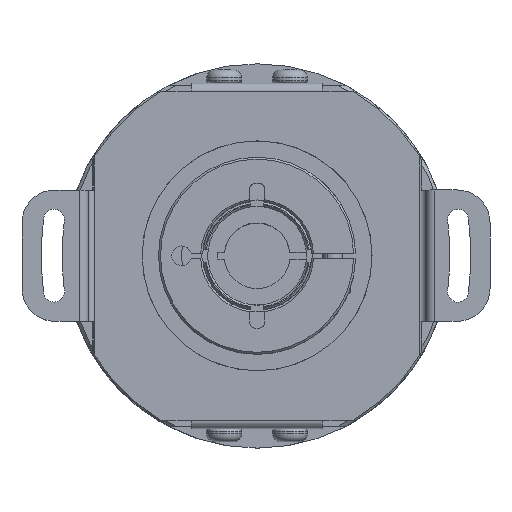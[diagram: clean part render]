
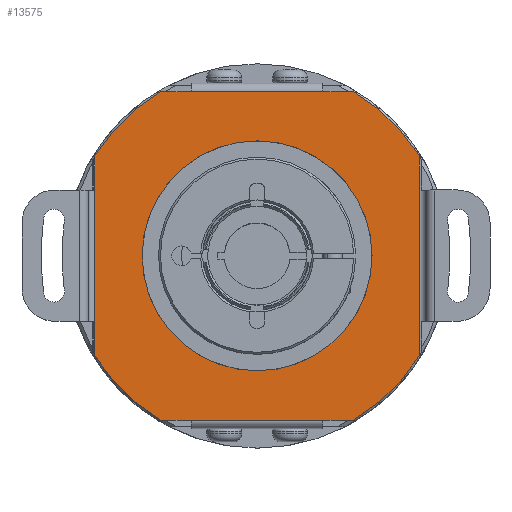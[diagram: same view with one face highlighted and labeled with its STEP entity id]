
A CAD part, top view. The second image highlights one B-rep face of the part: STEP entity #13575.
In plain terms, the highlighted planar face has unit normal (0, 0, 1).
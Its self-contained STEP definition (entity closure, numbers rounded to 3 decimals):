
#7931 = CARTESIAN_POINT ( 'NONE',  ( 0., 17.5, 4.194 ) ) ;
#8041 = DIRECTION ( 'NONE',  ( 0., -1., 0. ) ) ;
#8042 = DIRECTION ( 'NONE',  ( 0., 0., 1. ) ) ;
#8043 = CARTESIAN_POINT ( 'NONE',  ( 0., 0., 4.194 ) ) ;
#8044 = AXIS2_PLACEMENT_3D ( 'NONE', #8043, #8042, #8041 ) ;
#8045 = CIRCLE ( 'NONE', #8044, 17.5 ) ;
#8059 = CARTESIAN_POINT ( 'NONE',  ( 14.697, 25., 4.194 ) ) ;
#8060 = CARTESIAN_POINT ( 'NONE',  ( 24.7, 15.196, 4.194 ) ) ;
#8061 = DIRECTION ( 'NONE',  ( 0., 1., 0. ) ) ;
#8062 = VECTOR ( 'NONE', #8061, 1000. ) ;
#8063 = CARTESIAN_POINT ( 'NONE',  ( 24.7, -35.2, 4.194 ) ) ;
#8068 = LINE ( 'NONE', #8063, #8062 ) ;
#8152 = CARTESIAN_POINT ( 'NONE',  ( 0., -17.5, 4.194 ) ) ;
#13575 = ADVANCED_FACE ( 'NONE', ( #20359, #20405 ), #20390, .T. ) ;
#13576 = EDGE_CURVE ( 'NONE', #13678, #13660, #20385, .T. ) ;
#13604 = ORIENTED_EDGE ( 'NONE', *, *, #13605, .F. ) ;
#13605 = EDGE_CURVE ( 'NONE', #25331, #25273, #20514, .T. ) ;
#13606 = ORIENTED_EDGE ( 'NONE', *, *, #25293, .F. ) ;
#13619 = ORIENTED_EDGE ( 'NONE', *, *, #13631, .F. ) ;
#13620 = VERTEX_POINT ( 'NONE', #20544 ) ;
#13621 = ORIENTED_EDGE ( 'NONE', *, *, #13626, .F. ) ;
#13622 = EDGE_LOOP ( 'NONE', ( #13604, #13606 ) ) ;
#13623 = VERTEX_POINT ( 'NONE', #20543 ) ;
#13624 = VERTEX_POINT ( 'NONE', #20542 ) ;
#13626 = EDGE_CURVE ( 'NONE', #13627, #13620, #20578, .T. ) ;
#13627 = VERTEX_POINT ( 'NONE', #20579 ) ;
#13628 = ORIENTED_EDGE ( 'NONE', *, *, #25304, .T. ) ;
#13631 = EDGE_CURVE ( 'NONE', #13676, #13660, #20569, .T. ) ;
#13637 = ORIENTED_EDGE ( 'NONE', *, *, #13639, .F. ) ;
#13638 = VERTEX_POINT ( 'NONE', #20557 ) ;
#13639 = EDGE_CURVE ( 'NONE', #13638, #13687, #20617, .T. ) ;
#13640 = ORIENTED_EDGE ( 'NONE', *, *, #13641, .F. ) ;
#13641 = EDGE_CURVE ( 'NONE', #13623, #13638, #20613, .T. ) ;
#13643 = EDGE_CURVE ( 'NONE', #13620, #13656, #20604, .T. ) ;
#13648 = ORIENTED_EDGE ( 'NONE', *, *, #13643, .F. ) ;
#13649 = ORIENTED_EDGE ( 'NONE', *, *, #13650, .T. ) ;
#13650 = EDGE_CURVE ( 'NONE', #25305, #25306, #20594, .T. ) ;
#13651 = ORIENTED_EDGE ( 'NONE', *, *, #13652, .F. ) ;
#13652 = EDGE_CURVE ( 'NONE', #13624, #25306, #20589, .T. ) ;
#13654 = ORIENTED_EDGE ( 'NONE', *, *, #13655, .F. ) ;
#13655 = EDGE_CURVE ( 'NONE', #13656, #13676, #20644, .T. ) ;
#13656 = VERTEX_POINT ( 'NONE', #20640 ) ;
#13659 = ORIENTED_EDGE ( 'NONE', *, *, #13576, .T. ) ;
#13660 = VERTEX_POINT ( 'NONE', #20635 ) ;
#13676 = VERTEX_POINT ( 'NONE', #20675 ) ;
#13678 = VERTEX_POINT ( 'NONE', #20732 ) ;
#13679 = EDGE_CURVE ( 'NONE', #13678, #13623, #20731, .T. ) ;
#13684 = ORIENTED_EDGE ( 'NONE', *, *, #13679, .F. ) ;
#13685 = ORIENTED_EDGE ( 'NONE', *, *, #13686, .T. ) ;
#13686 = EDGE_CURVE ( 'NONE', #13624, #13687, #20722, .T. ) ;
#13687 = VERTEX_POINT ( 'NONE', #20718 ) ;
#20359 = FACE_OUTER_BOUND ( 'NONE', #25303, .T. ) ;
#20381 = DIRECTION ( 'NONE',  ( 0., -1., 0. ) ) ;
#20382 = DIRECTION ( 'NONE',  ( 0., 0., 1. ) ) ;
#20383 = CARTESIAN_POINT ( 'NONE',  ( 0., 0., 4.194 ) ) ;
#20384 = AXIS2_PLACEMENT_3D ( 'NONE', #20383, #20382, #20381 ) ;
#20385 = CIRCLE ( 'NONE', #20384, 29. ) ;
#20386 = DIRECTION ( 'NONE',  ( 0., -1., 0. ) ) ;
#20387 = DIRECTION ( 'NONE',  ( 0., 0., 1. ) ) ;
#20388 = CARTESIAN_POINT ( 'NONE',  ( -5., -35.2, 4.194 ) ) ;
#20389 = AXIS2_PLACEMENT_3D ( 'NONE', #20388, #20387, #20386 ) ;
#20390 = PLANE ( 'NONE',  #20389 ) ;
#20405 = FACE_BOUND ( 'NONE', #13622, .T. ) ;
#20510 = DIRECTION ( 'NONE',  ( 0., -1., 0. ) ) ;
#20511 = DIRECTION ( 'NONE',  ( 0., 0., 1. ) ) ;
#20512 = CARTESIAN_POINT ( 'NONE',  ( 0., 0., 4.194 ) ) ;
#20513 = AXIS2_PLACEMENT_3D ( 'NONE', #20512, #20511, #20510 ) ;
#20514 = CIRCLE ( 'NONE', #20513, 17.5 ) ;
#20542 = CARTESIAN_POINT ( 'NONE',  ( 10., 25., 4.194 ) ) ;
#20543 = CARTESIAN_POINT ( 'NONE',  ( -24.7, 15.196, 4.194 ) ) ;
#20544 = CARTESIAN_POINT ( 'NONE',  ( 14.697, -25., 4.194 ) ) ;
#20557 = CARTESIAN_POINT ( 'NONE',  ( -14.697, 25., 4.194 ) ) ;
#20566 = DIRECTION ( 'NONE',  ( -1., 0., 0. ) ) ;
#20567 = VECTOR ( 'NONE', #20566, 1000. ) ;
#20568 = CARTESIAN_POINT ( 'NONE',  ( -25., -25., 4.194 ) ) ;
#20569 = LINE ( 'NONE', #20568, #20567 ) ;
#20574 = DIRECTION ( 'NONE',  ( 0., -1., 0. ) ) ;
#20575 = DIRECTION ( 'NONE',  ( 0., 0., -1. ) ) ;
#20576 = CARTESIAN_POINT ( 'NONE',  ( 0., 0., 4.194 ) ) ;
#20577 = AXIS2_PLACEMENT_3D ( 'NONE', #20576, #20575, #20574 ) ;
#20578 = CIRCLE ( 'NONE', #20577, 29. ) ;
#20579 = CARTESIAN_POINT ( 'NONE',  ( 24.7, -15.196, 4.194 ) ) ;
#20586 = DIRECTION ( 'NONE',  ( 1., 0., 0. ) ) ;
#20587 = VECTOR ( 'NONE', #20586, 1000. ) ;
#20588 = CARTESIAN_POINT ( 'NONE',  ( 25., 25., 4.194 ) ) ;
#20589 = LINE ( 'NONE', #20588, #20587 ) ;
#20590 = DIRECTION ( 'NONE',  ( 1., 0., 0. ) ) ;
#20591 = DIRECTION ( 'NONE',  ( 0., 0., 1. ) ) ;
#20592 = CARTESIAN_POINT ( 'NONE',  ( 0., 0., 4.194 ) ) ;
#20593 = AXIS2_PLACEMENT_3D ( 'NONE', #20592, #20591, #20590 ) ;
#20594 = CIRCLE ( 'NONE', #20593, 29. ) ;
#20600 = DIRECTION ( 'NONE',  ( -1., 0., 0. ) ) ;
#20601 = VECTOR ( 'NONE', #20600, 1000. ) ;
#20603 = CARTESIAN_POINT ( 'NONE',  ( 10., -25., 4.194 ) ) ;
#20604 = LINE ( 'NONE', #20603, #20601 ) ;
#20609 = DIRECTION ( 'NONE',  ( 0., 1., 0. ) ) ;
#20610 = DIRECTION ( 'NONE',  ( 0., 0., -1. ) ) ;
#20611 = CARTESIAN_POINT ( 'NONE',  ( 0., 0., 4.194 ) ) ;
#20612 = AXIS2_PLACEMENT_3D ( 'NONE', #20611, #20610, #20609 ) ;
#20613 = CIRCLE ( 'NONE', #20612, 29. ) ;
#20614 = DIRECTION ( 'NONE',  ( 1., 0., 0. ) ) ;
#20615 = VECTOR ( 'NONE', #20614, 1000. ) ;
#20616 = CARTESIAN_POINT ( 'NONE',  ( -10., 25., 4.194 ) ) ;
#20617 = LINE ( 'NONE', #20616, #20615 ) ;
#20635 = CARTESIAN_POINT ( 'NONE',  ( -14.697, -25., 4.194 ) ) ;
#20640 = CARTESIAN_POINT ( 'NONE',  ( 10., -25., 4.194 ) ) ;
#20641 = DIRECTION ( 'NONE',  ( -1., 0., 0. ) ) ;
#20642 = VECTOR ( 'NONE', #20641, 1000. ) ;
#20643 = CARTESIAN_POINT ( 'NONE',  ( -5., -25., 4.194 ) ) ;
#20644 = LINE ( 'NONE', #20643, #20642 ) ;
#20675 = CARTESIAN_POINT ( 'NONE',  ( -10., -25., 4.194 ) ) ;
#20718 = CARTESIAN_POINT ( 'NONE',  ( -10., 25., 4.194 ) ) ;
#20719 = DIRECTION ( 'NONE',  ( -1., 0., 0. ) ) ;
#20720 = VECTOR ( 'NONE', #20719, 1000. ) ;
#20721 = CARTESIAN_POINT ( 'NONE',  ( -5., 25., 4.194 ) ) ;
#20722 = LINE ( 'NONE', #20721, #20720 ) ;
#20728 = DIRECTION ( 'NONE',  ( 0., 1., 0. ) ) ;
#20729 = VECTOR ( 'NONE', #20728, 1000. ) ;
#20730 = CARTESIAN_POINT ( 'NONE',  ( -24.7, -35.2, 4.194 ) ) ;
#20731 = LINE ( 'NONE', #20730, #20729 ) ;
#20732 = CARTESIAN_POINT ( 'NONE',  ( -24.7, -15.196, 4.194 ) ) ;
#25273 = VERTEX_POINT ( 'NONE', #7931 ) ;
#25293 = EDGE_CURVE ( 'NONE', #25273, #25331, #8045, .T. ) ;
#25303 = EDGE_LOOP ( 'NONE', ( #13684, #13659, #13619, #13654, #13648, #13621, #13628, #13649, #13651, #13685, #13637, #13640 ) ) ;
#25304 = EDGE_CURVE ( 'NONE', #13627, #25305, #8068, .T. ) ;
#25305 = VERTEX_POINT ( 'NONE', #8060 ) ;
#25306 = VERTEX_POINT ( 'NONE', #8059 ) ;
#25331 = VERTEX_POINT ( 'NONE', #8152 ) ;
